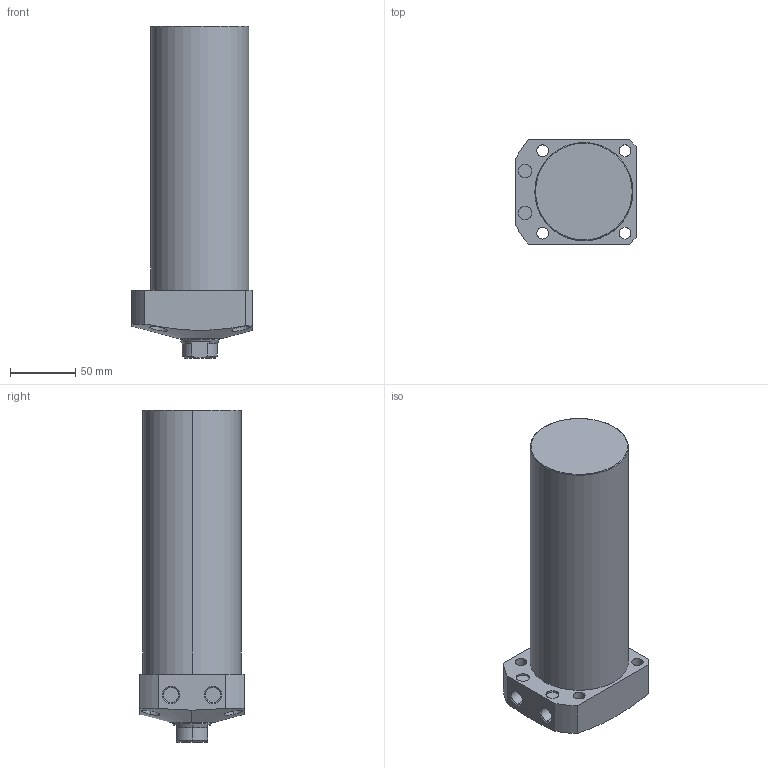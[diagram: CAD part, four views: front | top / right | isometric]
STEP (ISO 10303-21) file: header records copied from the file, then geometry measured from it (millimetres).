
FILE_DESCRIPTION (( 'STEP AP203' ), '1' );
FILE_NAME ('CLL-075CA-165.STEP', '2019-12-23T08:57:26', ( '' ), ( '' ), 'SwSTEP 2.0', 'SolidWorks 2015', '' );
FILE_SCHEMA (( 'CONFIG_CONTROL_DESIGN' ));
Length unit declared in the file: millimetre
Products named in the file (1): CLL-075CA-165
Bounding box: 92 x 80 x 254 mm (x, y, z)
Volume: 1111466.7 mm3; surface area: 79929.5 mm2
Topology: 1 solids, 1 shells, 74 faces, 171 edges, 108 vertices
Faces by surface type: cylinder 35, plane 22, cone 15, torus 2
Entity records: 2610 total; most frequent: CARTESIAN_POINT 815, DIRECTION 376, ORIENTED_EDGE 338, EDGE_CURVE 169, AXIS2_PLACEMENT_3D 156, VERTEX_POINT 108, EDGE_LOOP 93, CIRCLE 81
